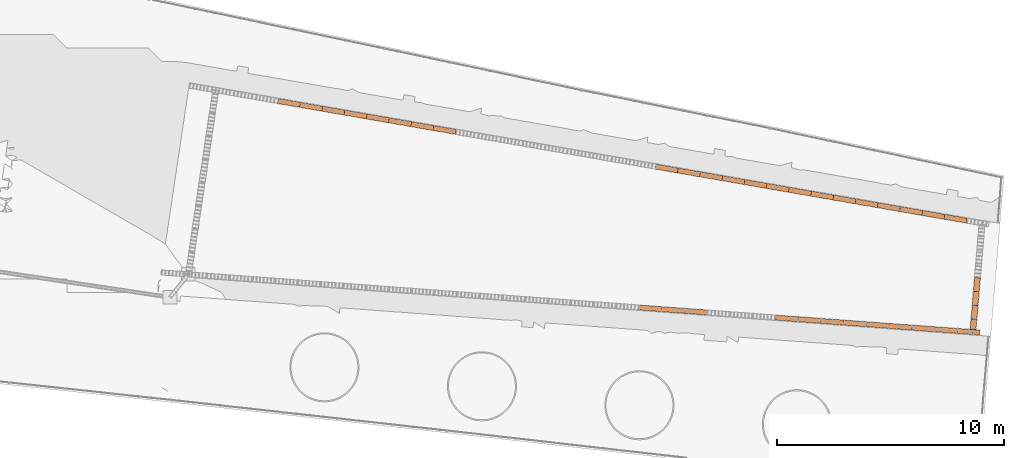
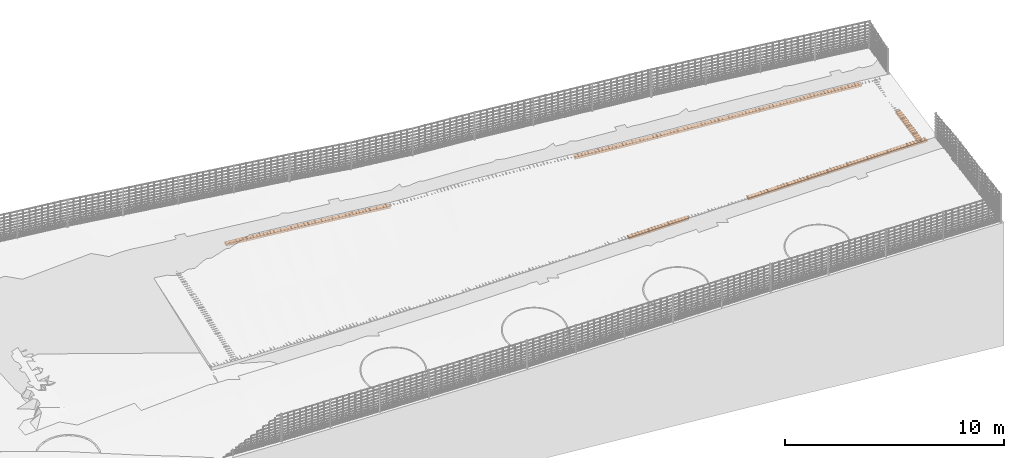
# Not in any storey, part 71 of 72: 39 proxies.
"""IFC4 model written with IfcOpenShell, lengths in metres."""

from ifc_helpers import new_model, si_unit, direction, frame, origin_with_axes, place, context, subcontext, project, spatial, polygons, material, element, save


model = new_model("IFC4")

# Units and contexts
model_context = context("Model", 3, precision=1e-05, world=origin_with_axes(), true_north=direction((0.0, 1.0)))
body_context = subcontext(model_context, "Body", "Model", "MODEL_VIEW")
ifc_project = project(units=[si_unit("VOLUMEUNIT", "CUBIC_METRE"), si_unit("LENGTHUNIT", "METRE"), si_unit("AREAUNIT", "SQUARE_METRE")], contexts=[model_context])

# Site
site_placement = place(None, origin_with_axes())
site = spatial("IfcSite", under=ifc_project, at=site_placement, Name="Lares · Rua das Mercês · artigo 4771")

# Proxies
ifc_material = material(Name="Brita drenante", Category="stone")
proxy_1_placement = place(site_placement, frame((0.0, 0.0, 0.0), z_axis=(0.0, 0.0, 1.0), x_axis=(1.0, -1.03767253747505e-17, 0.0)))
element("IfcBuildingElementProxy", 1, at=proxy_1_placement, inside=site, material=ifc_material, Name="Acesso · dreno lateral raso · leito drenante", ObjectType="Acesso · dreno lateral raso · leito drenante", PredefinedType="USERDEFINED", context=body_context, shape_type="Tessellation", body=[
    polygons([(67.7349789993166, 1.67129338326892, 15.1414441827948), (67.7511062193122, 1.89070147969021, 15.1414441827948), (68.7551753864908, 1.81689907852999, 15.2011838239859), (68.7390481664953, 1.5974909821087, 15.2011838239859), (67.7349789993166, 1.67129338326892, 15.2564441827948), (67.7511062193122, 1.89070147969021, 15.2564441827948), (68.7551753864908, 1.81689907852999, 15.3161838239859), (68.7390481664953, 1.5974909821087, 15.3161838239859)], [[[4, 3, 2, 1]], [[5, 6, 7, 8]], [[1, 2, 6, 5]], [[2, 3, 7, 6]], [[3, 4, 8, 7]], [[4, 1, 5, 8]]]),
])
proxy_2_placement = place(site_placement, frame((0.0, 0.0, 0.0), z_axis=(0.0, 0.0, 1.0), x_axis=(1.0, -1.03767253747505e-17, 0.0)))
element("IfcBuildingElementProxy", 2, at=proxy_2_placement, inside=site, material=ifc_material, Name="Acesso · dreno lateral raso · leito drenante", ObjectType="Acesso · dreno lateral raso · leito drenante", PredefinedType="USERDEFINED", context=body_context, shape_type="Tessellation", body=[
    polygons([(68.7390481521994, 1.59749098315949, 15.2011838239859), (68.7551754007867, 1.8168990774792, 15.2011838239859), (69.7592370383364, 1.74309709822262, 15.2609230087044), (69.7431097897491, 1.52368900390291, 15.2609230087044), (68.7390481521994, 1.59749098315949, 15.3161838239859), (68.7551754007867, 1.8168990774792, 15.3161838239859), (69.7592370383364, 1.74309709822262, 15.3759230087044), (69.7431097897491, 1.52368900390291, 15.3759230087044)], [[[4, 3, 2, 1]], [[5, 6, 7, 8]], [[1, 2, 6, 5]], [[2, 3, 7, 6]], [[3, 4, 8, 7]], [[4, 1, 5, 8]]]),
])
proxy_3_placement = place(site_placement, frame((0.0, 0.0, 0.0), z_axis=(0.0, 0.0, 1.0), x_axis=(1.0, -1.03767253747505e-17, 0.0)))
element("IfcBuildingElementProxy", 3, at=proxy_3_placement, inside=site, material=ifc_material, Name="Acesso · dreno lateral raso · leito drenante", ObjectType="Acesso · dreno lateral raso · leito drenante", PredefinedType="USERDEFINED", context=body_context, shape_type="Tessellation", body=[
    polygons([(69.7431097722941, 1.52368900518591, 15.2609230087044), (69.7592370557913, 1.74309709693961, 15.2609230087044), (70.7632908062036, 1.66929553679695, 15.3206617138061), (70.7471635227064, 1.44988744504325, 15.3206617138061), (69.7431097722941, 1.52368900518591, 15.3759230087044), (69.7592370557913, 1.74309709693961, 15.3759230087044), (70.7632908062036, 1.66929553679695, 15.4356617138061), (70.7471635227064, 1.44988744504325, 15.4356617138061)], [[[4, 3, 2, 1]], [[5, 6, 7, 8]], [[1, 2, 6, 5]], [[2, 3, 7, 6]], [[3, 4, 8, 7]], [[4, 1, 5, 8]]]),
])
proxy_4_placement = place(site_placement, frame((0.0, 0.0, 0.0), z_axis=(0.0, 0.0, 1.0), x_axis=(1.0, -1.03767253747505e-17, 0.0)))
element("IfcBuildingElementProxy", 4, at=proxy_4_placement, inside=site, material=ifc_material, Name="Acesso · dreno lateral raso · leito drenante", ObjectType="Acesso · dreno lateral raso · leito drenante", PredefinedType="USERDEFINED", context=body_context, shape_type="Tessellation", body=[
    polygons([(73.7592734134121, 1.22848523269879, 15.4903385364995), (73.7754009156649, 1.44789330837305, 15.4903385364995), (74.7794190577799, 1.37409335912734, 15.5482507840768), (74.7632915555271, 1.15468528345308, 15.5482507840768), (73.7592734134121, 1.22848523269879, 15.6053385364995), (73.7754009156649, 1.44789330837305, 15.6053385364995), (74.7794190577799, 1.37409335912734, 15.6632507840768), (74.7632915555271, 1.15468528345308, 15.6632507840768)], [[[4, 3, 2, 1]], [[5, 6, 7, 8]], [[1, 2, 6, 5]], [[2, 3, 7, 6]], [[3, 4, 8, 7]], [[4, 1, 5, 8]]]),
])
proxy_5_placement = place(site_placement, frame((0.0, 0.0, 0.0), z_axis=(0.0, 0.0, 1.0), x_axis=(1.0, -1.03767253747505e-17, 0.0)))
element("IfcBuildingElementProxy", 5, at=proxy_5_placement, inside=site, material=ifc_material, Name="Acesso · dreno lateral raso · leito drenante", ObjectType="Acesso · dreno lateral raso · leito drenante", PredefinedType="USERDEFINED", context=body_context, shape_type="Tessellation", body=[
    polygons([(74.7632915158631, 1.15468528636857, 15.5482507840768), (74.7794190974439, 1.37409335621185, 15.5482507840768), (75.7834271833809, 1.30029378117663, 15.6061624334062), (75.7672996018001, 1.08088571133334, 15.6061624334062), (74.7632915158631, 1.15468528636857, 15.6632507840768), (74.7794190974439, 1.37409335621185, 15.6632507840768), (75.7834271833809, 1.30029378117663, 15.7211624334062), (75.7672996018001, 1.08088571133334, 15.7211624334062)], [[[4, 3, 2, 1]], [[5, 6, 7, 8]], [[1, 2, 6, 5]], [[2, 3, 7, 6]], [[3, 4, 8, 7]], [[4, 1, 5, 8]]]),
])
proxy_6_placement = place(site_placement, frame((0.0, 0.0, 0.0), z_axis=(0.0, 0.0, 1.0), x_axis=(1.0, -1.03767253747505e-17, 0.0)))
element("IfcBuildingElementProxy", 6, at=proxy_6_placement, inside=site, material=ifc_material, Name="Acesso · dreno lateral raso · leito drenante", ObjectType="Acesso · dreno lateral raso · leito drenante", PredefinedType="USERDEFINED", context=body_context, shape_type="Tessellation", body=[
    polygons([(75.7672995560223, 1.08088571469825, 15.6061624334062), (75.7834272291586, 1.30029377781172, 15.6061624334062), (76.7874247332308, 1.22649455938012, 15.6640734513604), (76.7712970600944, 1.00708649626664, 15.6640734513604), (75.7672995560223, 1.08088571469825, 15.7211624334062), (75.7834272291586, 1.30029377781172, 15.7211624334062), (76.7874247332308, 1.22649455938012, 15.7790734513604), (76.7712970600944, 1.00708649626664, 15.7790734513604)], [[[4, 3, 2, 1]], [[5, 6, 7, 8]], [[1, 2, 6, 5]], [[2, 3, 7, 6]], [[3, 4, 8, 7]], [[4, 1, 5, 8]]]),
])
proxy_7_placement = place(site_placement, frame((0.0, 0.0, 0.0), z_axis=(0.0, 0.0, 1.0), x_axis=(1.0, -1.03767253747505e-17, 0.0)))
element("IfcBuildingElementProxy", 7, at=proxy_7_placement, inside=site, material=ifc_material, Name="Acesso · dreno lateral raso · leito drenante", ObjectType="Acesso · dreno lateral raso · leito drenante", PredefinedType="USERDEFINED", context=body_context, shape_type="Tessellation", body=[
    polygons([(76.7712970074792, 1.00708650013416, 15.6640734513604), (76.787424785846, 1.2264945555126, 15.6640734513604), (77.7914111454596, 1.15269567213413, 15.7219838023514), (77.7752833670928, 0.933287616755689, 15.7219838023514), (76.7712970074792, 1.00708650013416, 15.7790734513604), (76.787424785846, 1.2264945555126, 15.7790734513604), (77.7914111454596, 1.15269567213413, 15.8369838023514), (77.7752833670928, 0.933287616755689, 15.8369838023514)], [[[4, 3, 2, 1]], [[5, 6, 7, 8]], [[1, 2, 6, 5]], [[2, 3, 7, 6]], [[3, 4, 8, 7]], [[4, 1, 5, 8]]]),
])
proxy_8_placement = place(site_placement, frame((0.0, 0.0, 0.0), z_axis=(0.0, 0.0, 1.0), x_axis=(1.0, -1.03767253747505e-17, 0.0)))
element("IfcBuildingElementProxy", 8, at=proxy_8_placement, inside=site, material=ifc_material, Name="Acesso · dreno lateral raso · leito drenante", ObjectType="Acesso · dreno lateral raso · leito drenante", PredefinedType="USERDEFINED", context=body_context, shape_type="Tessellation", body=[
    polygons([(77.7752833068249, 0.933287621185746, 15.7219838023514), (77.7914112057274, 1.15269566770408, 15.7219838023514), (78.7953858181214, 1.07889709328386, 15.7798934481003), (78.7792579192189, 0.859489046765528, 15.7798934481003), (77.7752833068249, 0.933287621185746, 15.8369838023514), (77.7914112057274, 1.15269566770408, 15.8369838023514), (78.7953858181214, 1.07889709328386, 15.8948934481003), (78.7792579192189, 0.859489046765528, 15.8948934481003)], [[[4, 3, 2, 1]], [[5, 6, 7, 8]], [[1, 2, 6, 5]], [[2, 3, 7, 6]], [[3, 4, 8, 7]], [[4, 1, 5, 8]]]),
])
proxy_9_placement = place(site_placement, frame((0.0, 0.0, 0.0), z_axis=(0.0, 0.0, 1.0), x_axis=(1.0, -1.03767253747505e-17, 0.0)))
element("IfcBuildingElementProxy", 9, at=proxy_9_placement, inside=site, material=ifc_material, Name="Acesso · dreno lateral raso · leito drenante", ObjectType="Acesso · dreno lateral raso · leito drenante", PredefinedType="USERDEFINED", context=body_context, shape_type="Tessellation", body=[
    polygons([(78.7792578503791, 0.859489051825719, 15.7798934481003), (78.7953858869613, 1.07889708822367, 15.7798934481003), (79.7993481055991, 1.00509879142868, 15.8378023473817), (79.7832200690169, 0.785690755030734, 15.8378023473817), (78.7792578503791, 0.859489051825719, 15.8948934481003), (78.7953858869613, 1.07889708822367, 15.8948934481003), (79.7993481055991, 1.00509879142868, 15.9528023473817), (79.7832200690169, 0.785690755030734, 15.9528023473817)], [[[4, 3, 2, 1]], [[5, 6, 7, 8]], [[1, 2, 6, 5]], [[2, 3, 7, 6]], [[3, 4, 8, 7]], [[4, 1, 5, 8]]]),
])
proxy_10_placement = place(site_placement, frame((0.0, 0.0, 0.0), z_axis=(0.0, 0.0, 1.0), x_axis=(1.0, -1.03767253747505e-17, 0.0)))
element("IfcBuildingElementProxy", 10, at=proxy_10_placement, inside=site, material=ifc_material, Name="Acesso · dreno lateral raso · leito drenante", ObjectType="Acesso · dreno lateral raso · leito drenante", PredefinedType="USERDEFINED", context=body_context, shape_type="Tessellation", body=[
    polygons([(79.7832199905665, 0.785690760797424, 15.8378023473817), (79.7993481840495, 1.005098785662, 15.8378023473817), (80.8032973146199, 0.931300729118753, 15.8957104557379), (80.7871691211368, 0.711892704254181, 15.8957104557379), (79.7832199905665, 0.785690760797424, 15.9528023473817), (79.7993481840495, 1.005098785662, 15.9528023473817), (80.8032973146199, 0.931300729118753, 16.0107104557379), (80.7871691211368, 0.711892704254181, 16.0107104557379)], [[[4, 3, 2, 1]], [[5, 6, 7, 8]], [[1, 2, 6, 5]], [[2, 3, 7, 6]], [[3, 4, 8, 7]], [[4, 1, 5, 8]]]),
])
proxy_11_placement = place(site_placement, frame((0.0, 0.0, 0.0), z_axis=(0.0, 0.0, 1.0), x_axis=(1.0, -1.03767253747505e-17, 0.0)))
element("IfcBuildingElementProxy", 11, at=proxy_11_placement, inside=site, material=ifc_material, Name="Acesso · dreno lateral raso · leito drenante", ObjectType="Acesso · dreno lateral raso · leito drenante", PredefinedType="USERDEFINED", context=body_context, shape_type="Tessellation", body=[
    polygons([(80.7871690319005, 0.711892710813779, 15.8957104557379), (80.8032974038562, 0.931300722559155, 15.8957104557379), (81.8072326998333, 0.857502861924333, 15.9472141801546), (81.7911043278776, 0.638094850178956, 15.9472141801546), (80.7871690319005, 0.711892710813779, 16.0107104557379), (80.8032974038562, 0.931300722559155, 16.0107104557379), (81.8072326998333, 0.857502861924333, 16.0622141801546), (81.7911043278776, 0.638094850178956, 16.0622141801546)], [[[4, 3, 2, 1]], [[5, 6, 7, 8]], [[1, 2, 6, 5]], [[2, 3, 7, 6]], [[3, 4, 8, 7]], [[4, 1, 5, 8]]]),
])
proxy_12_placement = place(site_placement, frame((0.0, 0.0, 0.0), z_axis=(0.0, 0.0, 1.0), x_axis=(1.0, -1.03767253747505e-17, 0.0)))
element("IfcBuildingElementProxy", 12, at=proxy_12_placement, inside=site, material=ifc_material, Name="Acesso · dreno lateral raso · leito drenante", ObjectType="Acesso · dreno lateral raso · leito drenante", PredefinedType="USERDEFINED", context=body_context, shape_type="Tessellation", body=[
    polygons([(81.7911042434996, 0.638094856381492, 15.9472141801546), (81.8072327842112, 0.857502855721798, 15.9472141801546), (82.497647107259, 0.806750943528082, 15.97844099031), (82.4815185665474, 0.587342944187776, 15.97844099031), (81.7911042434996, 0.638094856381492, 16.0622141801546), (81.8072327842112, 0.857502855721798, 16.0622141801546), (82.497647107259, 0.806750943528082, 16.09344099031), (82.4815185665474, 0.587342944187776, 16.09344099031)], [[[4, 3, 2, 1]], [[5, 6, 7, 8]], [[1, 2, 6, 5]], [[2, 3, 7, 6]], [[3, 4, 8, 7]], [[4, 1, 5, 8]]]),
])
proxy_13_placement = place(site_placement, frame((0.0, 0.0, 0.0), z_axis=(0.0, 0.0, 1.0), x_axis=(1.0, -1.03767253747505e-17, 0.0)))
element("IfcBuildingElementProxy", 13, at=proxy_13_placement, inside=site, material=ifc_material, Name="Acesso · dreno lateral raso · leito drenante", ObjectType="Acesso · dreno lateral raso · leito drenante", PredefinedType="USERDEFINED", context=body_context, shape_type="Tessellation", body=[
    polygons([(82.4815185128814, 0.587342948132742, 15.97844099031), (82.497647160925, 0.806750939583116, 15.97844099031), (82.7988218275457, 0.784611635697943, 15.9920628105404), (82.7826931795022, 0.565203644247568, 15.9920628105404), (82.4815185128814, 0.587342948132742, 16.09344099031), (82.497647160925, 0.806750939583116, 16.09344099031), (82.7988218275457, 0.784611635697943, 16.1070628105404), (82.7826931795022, 0.565203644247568, 16.1070628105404)], [[[4, 3, 2, 1]], [[5, 6, 7, 8]], [[1, 2, 6, 5]], [[2, 3, 7, 6]], [[3, 4, 8, 7]], [[4, 1, 5, 8]]]),
])
proxy_14_placement = place(site_placement, frame((0.0, 0.0, 0.0), z_axis=(0.0, 0.0, 1.0), x_axis=(1.0, -1.03767253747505e-17, 0.0)))
element("IfcBuildingElementProxy", 14, at=proxy_14_placement, inside=site, material=ifc_material, Name="Acesso · dreno lateral raso · leito drenante", ObjectType="Acesso · dreno lateral raso · leito drenante", PredefinedType="USERDEFINED", context=body_context, shape_type="Tessellation", body=[
    polygons([(51.7936893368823, 10.7893990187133, 14.833814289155), (51.8313420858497, 11.0061529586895, 14.833814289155), (52.812219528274, 10.8357628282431, 14.8641974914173), (52.7745667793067, 10.6190088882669, 14.8641974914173), (51.7936893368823, 10.7893990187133, 14.948814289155), (51.8313420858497, 11.0061529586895, 14.948814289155), (52.812219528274, 10.8357628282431, 14.9791974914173), (52.7745667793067, 10.6190088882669, 14.9791974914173)], [[[4, 3, 2, 1]], [[5, 6, 7, 8]], [[1, 2, 6, 5]], [[2, 3, 7, 6]], [[3, 4, 8, 7]], [[4, 1, 5, 8]]]),
])
proxy_15_placement = place(site_placement, frame((0.0, 0.0, 0.0), z_axis=(0.0, 0.0, 1.0), x_axis=(1.0, -1.03767253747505e-17, 0.0)))
element("IfcBuildingElementProxy", 15, at=proxy_15_placement, inside=site, material=ifc_material, Name="Acesso · dreno lateral raso · leito drenante", ObjectType="Acesso · dreno lateral raso · leito drenante", PredefinedType="USERDEFINED", context=body_context, shape_type="Tessellation", body=[
    polygons([(52.7745668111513, 10.6190088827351, 14.8641974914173), (52.8122194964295, 10.8357628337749, 14.8641974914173), (53.7931006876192, 10.6653723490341, 14.8935725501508), (53.755448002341, 10.4486183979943, 14.8935725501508), (52.7745668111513, 10.6190088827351, 14.9791974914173), (52.8122194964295, 10.8357628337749, 14.9791974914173), (53.7931006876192, 10.6653723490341, 15.0085725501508), (53.755448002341, 10.4486183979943, 15.0085725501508)], [[[4, 3, 2, 1]], [[5, 6, 7, 8]], [[1, 2, 6, 5]], [[2, 3, 7, 6]], [[3, 4, 8, 7]], [[4, 1, 5, 8]]]),
])
proxy_16_placement = place(site_placement, frame((0.0, 0.0, 0.0), z_axis=(0.0, 0.0, 1.0), x_axis=(1.0, -1.03767253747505e-17, 0.0)))
element("IfcBuildingElementProxy", 16, at=proxy_16_placement, inside=site, material=ifc_material, Name="Acesso · dreno lateral raso · leito drenante", ObjectType="Acesso · dreno lateral raso · leito drenante", PredefinedType="USERDEFINED", context=body_context, shape_type="Tessellation", body=[
    polygons([(53.7554480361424, 10.4486183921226, 14.8935725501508), (53.7931006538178, 10.6653723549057, 14.8935725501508), (54.7739857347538, 10.4949815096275, 14.92193946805), (54.7363331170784, 10.2782275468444, 14.92193946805), (53.7554480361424, 10.4486183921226, 15.0085725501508), (53.7931006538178, 10.6653723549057, 15.0085725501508), (54.7739857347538, 10.4949815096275, 15.03693946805), (54.7363331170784, 10.2782275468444, 15.03693946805)], [[[4, 3, 2, 1]], [[5, 6, 7, 8]], [[1, 2, 6, 5]], [[2, 3, 7, 6]], [[3, 4, 8, 7]], [[4, 1, 5, 8]]]),
])
proxy_17_placement = place(site_placement, frame((0.0, 0.0, 0.0), z_axis=(0.0, 0.0, 1.0), x_axis=(1.0, -1.03767253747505e-17, 0.0)))
element("IfcBuildingElementProxy", 17, at=proxy_17_placement, inside=site, material=ifc_material, Name="Acesso · dreno lateral raso · leito drenante", ObjectType="Acesso · dreno lateral raso · leito drenante", PredefinedType="USERDEFINED", context=body_context, shape_type="Tessellation", body=[
    polygons([(54.7363331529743, 10.2782275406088, 14.92193946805), (54.7739856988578, 10.494981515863, 14.92193946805), (55.7548748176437, 10.3245903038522, 14.9492982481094), (55.7172222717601, 10.107836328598, 14.9492982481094), (54.7363331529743, 10.2782275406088, 15.03693946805), (54.7739856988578, 10.494981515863, 15.03693946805), (55.7548748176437, 10.3245903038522, 15.0642982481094), (55.7172222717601, 10.107836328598, 15.0642982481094)], [[[4, 3, 2, 1]], [[5, 6, 7, 8]], [[1, 2, 6, 5]], [[2, 3, 7, 6]], [[3, 4, 8, 7]], [[4, 1, 5, 8]]]),
])
proxy_18_placement = place(site_placement, frame((0.0, 0.0, 0.0), z_axis=(0.0, 0.0, 1.0), x_axis=(1.0, -1.03767253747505e-17, 0.0)))
element("IfcBuildingElementProxy", 18, at=proxy_18_placement, inside=site, material=ifc_material, Name="Acesso · dreno lateral raso · leito drenante", ObjectType="Acesso · dreno lateral raso · leito drenante", PredefinedType="USERDEFINED", context=body_context, shape_type="Tessellation", body=[
    polygons([(55.7172223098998, 10.1078363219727, 14.9492982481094), (55.754874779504, 10.3245903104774, 14.9492982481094), (56.7357680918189, 10.1541987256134, 14.9692064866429), (56.6981156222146, 9.93744473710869, 14.9692064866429), (55.7172223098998, 10.1078363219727, 15.0642982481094), (55.754874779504, 10.3245903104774, 15.0642982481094), (56.7357680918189, 10.1541987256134, 15.0842064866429), (56.6981156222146, 9.93744473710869, 15.0842064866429)], [[[4, 3, 2, 1]], [[5, 6, 7, 8]], [[1, 2, 6, 5]], [[2, 3, 7, 6]], [[3, 4, 8, 7]], [[4, 1, 5, 8]]]),
])
proxy_19_placement = place(site_placement, frame((0.0, 0.0, 0.0), z_axis=(0.0, 0.0, 1.0), x_axis=(1.0, -1.03767253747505e-17, 0.0)))
element("IfcBuildingElementProxy", 19, at=proxy_19_placement, inside=site, material=ifc_material, Name="Acesso · dreno lateral raso · leito drenante", ObjectType="Acesso · dreno lateral raso · leito drenante", PredefinedType="USERDEFINED", context=body_context, shape_type="Tessellation", body=[
    polygons([(56.6981156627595, 9.93744473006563, 14.9692064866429), (56.735768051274, 10.1541987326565, 14.9692064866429), (57.7166657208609, 9.98380676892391, 14.9891148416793), (57.6790133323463, 9.76705276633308, 14.9891148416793), (56.6981156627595, 9.93744473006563, 15.0842064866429), (56.735768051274, 10.1541987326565, 15.0842064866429), (57.7166657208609, 9.98380676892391, 15.1041148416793), (57.6790133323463, 9.76705276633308, 15.1041148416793)], [[[4, 3, 2, 1]], [[5, 6, 7, 8]], [[1, 2, 6, 5]], [[2, 3, 7, 6]], [[3, 4, 8, 7]], [[4, 1, 5, 8]]]),
])
proxy_20_placement = place(site_placement, frame((0.0, 0.0, 0.0), z_axis=(0.0, 0.0, 1.0), x_axis=(1.0, -1.03767253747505e-17, 0.0)))
element("IfcBuildingElementProxy", 20, at=proxy_20_placement, inside=site, material=ifc_material, Name="Acesso · dreno lateral raso · leito drenante", ObjectType="Acesso · dreno lateral raso · leito drenante", PredefinedType="USERDEFINED", context=body_context, shape_type="Tessellation", body=[
    polygons([(57.6790133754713, 9.76705275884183, 14.9891148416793), (57.7166656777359, 9.98380677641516, 14.9891148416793), (58.6975678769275, 9.81341442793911, 15.0090233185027), (58.6599155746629, 9.59666041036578, 15.0090233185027), (57.6790133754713, 9.76705275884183, 15.1041148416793), (57.7166656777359, 9.98380677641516, 15.1041148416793), (58.6975678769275, 9.81341442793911, 15.1240233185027), (58.6599155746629, 9.59666041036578, 15.1240233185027)], [[[4, 3, 2, 1]], [[5, 6, 7, 8]], [[1, 2, 6, 5]], [[2, 3, 7, 6]], [[3, 4, 8, 7]], [[4, 1, 5, 8]]]),
])
proxy_21_placement = place(site_placement, frame((0.0, 0.0, 0.0), z_axis=(0.0, 0.0, 1.0), x_axis=(1.0, -1.03767253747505e-17, 0.0)))
element("IfcBuildingElementProxy", 21, at=proxy_21_placement, inside=site, material=ifc_material, Name="Acesso · dreno lateral raso · leito drenante", ObjectType="Acesso · dreno lateral raso · leito drenante", PredefinedType="USERDEFINED", context=body_context, shape_type="Tessellation", body=[
    polygons([(58.659915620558, 9.59666040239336, 15.0090233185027), (58.6975678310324, 9.81341443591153, 15.0090233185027), (59.6784747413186, 9.64302169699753, 15.017504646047), (59.6408225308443, 9.42626766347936, 15.017504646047), (58.659915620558, 9.59666040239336, 15.1240233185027), (58.6975678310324, 9.81341443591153, 15.1240233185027), (59.6784747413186, 9.64302169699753, 15.132504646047), (59.6408225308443, 9.42626766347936, 15.132504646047)], [[[4, 3, 2, 1]], [[5, 6, 7, 8]], [[1, 2, 6, 5]], [[2, 3, 7, 6]], [[3, 4, 8, 7]], [[4, 1, 5, 8]]]),
])
proxy_22_placement = place(site_placement, frame((0.0, 0.0, 0.0), z_axis=(0.0, 0.0, 1.0), x_axis=(1.0, -1.03767253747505e-17, 0.0)))
element("IfcBuildingElementProxy", 22, at=proxy_22_placement, inside=site, material=ifc_material, Name="Acesso · dreno lateral raso · leito drenante", ObjectType="Acesso · dreno lateral raso · leito drenante", PredefinedType="USERDEFINED", context=body_context, shape_type="Tessellation", body=[
    polygons([(68.4692327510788, 7.89271454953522, 15.5712781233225), (68.5068836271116, 8.10946881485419, 15.5712781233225), (69.487850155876, 7.93907194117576, 15.6098622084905), (69.4501992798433, 7.72231767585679, 15.6098622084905), (68.4692327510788, 7.89271454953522, 15.6862781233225), (68.5068836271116, 8.10946881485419, 15.6862781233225), (69.487850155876, 7.93907194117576, 15.7248622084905), (69.4501992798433, 7.72231767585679, 15.7248622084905)], [[[4, 3, 2, 1]], [[5, 6, 7, 8]], [[1, 2, 6, 5]], [[2, 3, 7, 6]], [[3, 4, 8, 7]], [[4, 1, 5, 8]]]),
])
proxy_23_placement = place(site_placement, frame((0.0, 0.0, 0.0), z_axis=(0.0, 0.0, 1.0), x_axis=(1.0, -1.03767253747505e-17, 0.0)))
element("IfcBuildingElementProxy", 23, at=proxy_23_placement, inside=site, material=ifc_material, Name="Acesso · dreno lateral raso · leito drenante", ObjectType="Acesso · dreno lateral raso · leito drenante", PredefinedType="USERDEFINED", context=body_context, shape_type="Tessellation", body=[
    polygons([(69.4501993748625, 7.7223176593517, 15.6098622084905), (69.4878500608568, 7.93907195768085, 15.6098622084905), (70.4688241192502, 7.76867466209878, 15.6484466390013), (70.4311734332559, 7.55192036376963, 15.6484466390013), (69.4501993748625, 7.7223176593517, 15.7248622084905), (69.4878500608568, 7.93907195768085, 15.7248622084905), (70.4688241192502, 7.76867466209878, 15.7634466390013), (70.4311734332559, 7.55192036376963, 15.7634466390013)], [[[4, 3, 2, 1]], [[5, 6, 7, 8]], [[1, 2, 6, 5]], [[2, 3, 7, 6]], [[3, 4, 8, 7]], [[4, 1, 5, 8]]]),
])
proxy_24_placement = place(site_placement, frame((0.0, 0.0, 0.0), z_axis=(0.0, 0.0, 1.0), x_axis=(1.0, -1.03767253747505e-17, 0.0)))
element("IfcBuildingElementProxy", 24, at=proxy_24_placement, inside=site, material=ifc_material, Name="Acesso · dreno lateral raso · leito drenante", ObjectType="Acesso · dreno lateral raso · leito drenante", PredefinedType="USERDEFINED", context=body_context, shape_type="Tessellation", body=[
    polygons([(70.4311735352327, 7.5519203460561, 15.6484466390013), (70.4688240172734, 7.76867467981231, 15.6484466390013), (71.4498059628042, 7.59827696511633, 15.7002770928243), (71.4121554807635, 7.38152263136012, 15.7002770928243), (70.4311735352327, 7.5519203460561, 15.7634466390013), (70.4688240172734, 7.76867467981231, 15.7634466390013), (71.4498059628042, 7.59827696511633, 15.8152770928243), (71.4121554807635, 7.38152263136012, 15.8152770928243)], [[[4, 3, 2, 1]], [[5, 6, 7, 8]], [[1, 2, 6, 5]], [[2, 3, 7, 6]], [[3, 4, 8, 7]], [[4, 1, 5, 8]]]),
])
proxy_25_placement = place(site_placement, frame((0.0, 0.0, 0.0), z_axis=(0.0, 0.0, 1.0), x_axis=(1.0, -1.03767253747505e-17, 0.0)))
element("IfcBuildingElementProxy", 25, at=proxy_25_placement, inside=site, material=ifc_material, Name="Acesso · dreno lateral raso · leito drenante", ObjectType="Acesso · dreno lateral raso · leito drenante", PredefinedType="USERDEFINED", context=body_context, shape_type="Tessellation", body=[
    polygons([(71.412155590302, 7.3815226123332, 15.7002770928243), (71.4498058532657, 7.59827698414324, 15.7002770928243), (72.4307960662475, 7.4278788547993, 15.7623891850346), (72.3931458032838, 7.21112448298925, 15.7623891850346), (71.412155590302, 7.3815226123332, 15.8152770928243), (71.4498058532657, 7.59827698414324, 15.8152770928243), (72.4307960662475, 7.4278788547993, 15.8773891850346), (72.3931458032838, 7.21112448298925, 15.8773891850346)], [[[4, 3, 2, 1]], [[5, 6, 7, 8]], [[1, 2, 6, 5]], [[2, 3, 7, 6]], [[3, 4, 8, 7]], [[4, 1, 5, 8]]]),
])
proxy_26_placement = place(site_placement, frame((0.0, 0.0, 0.0), z_axis=(0.0, 0.0, 1.0), x_axis=(1.0, -1.03767253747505e-17, 0.0)))
element("IfcBuildingElementProxy", 26, at=proxy_26_placement, inside=site, material=ifc_material, Name="Acesso · dreno lateral raso · leito drenante", ObjectType="Acesso · dreno lateral raso · leito drenante", PredefinedType="USERDEFINED", context=body_context, shape_type="Tessellation", body=[
    polygons([(72.3931459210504, 7.21112446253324, 15.7623891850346), (72.4307959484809, 7.4278788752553, 15.7623891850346), (73.411794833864, 7.25748033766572, 15.8187740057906), (73.3741448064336, 7.04072592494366, 15.8187740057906), (72.3931459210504, 7.21112446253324, 15.8773891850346), (72.4307959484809, 7.4278788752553, 15.8773891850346), (73.411794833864, 7.25748033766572, 15.9337740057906), (73.3741448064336, 7.04072592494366, 15.9337740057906)], [[[4, 3, 2, 1]], [[5, 6, 7, 8]], [[1, 2, 6, 5]], [[2, 3, 7, 6]], [[3, 4, 8, 7]], [[4, 1, 5, 8]]]),
])
proxy_27_placement = place(site_placement, frame((0.0, 0.0, 0.0), z_axis=(0.0, 0.0, 1.0), x_axis=(1.0, -1.03767253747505e-17, 0.0)))
element("IfcBuildingElementProxy", 27, at=proxy_27_placement, inside=site, material=ifc_material, Name="Acesso · dreno lateral raso · leito drenante", ObjectType="Acesso · dreno lateral raso · leito drenante", PredefinedType="USERDEFINED", context=body_context, shape_type="Tessellation", body=[
    polygons([(73.3741449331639, 7.04072590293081, 15.8187740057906), (73.4117947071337, 7.25748035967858, 15.8187740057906), (74.3928026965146, 7.08708142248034, 15.8729916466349), (74.3551529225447, 6.87032696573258, 15.8729916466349), (73.3741449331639, 7.04072590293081, 15.9337740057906), (73.4117947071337, 7.25748035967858, 15.9337740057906), (74.3928026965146, 7.08708142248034, 15.9879916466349), (74.3551529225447, 6.87032696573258, 15.9879916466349)], [[[4, 3, 2, 1]], [[5, 6, 7, 8]], [[1, 2, 6, 5]], [[2, 3, 7, 6]], [[3, 4, 8, 7]], [[4, 1, 5, 8]]]),
])
proxy_28_placement = place(site_placement, frame((0.0, 0.0, 0.0), z_axis=(0.0, 0.0, 1.0), x_axis=(1.0, -1.03767253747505e-17, 0.0)))
element("IfcBuildingElementProxy", 28, at=proxy_28_placement, inside=site, material=ifc_material, Name="Acesso · dreno lateral raso · leito drenante", ObjectType="Acesso · dreno lateral raso · leito drenante", PredefinedType="USERDEFINED", context=body_context, shape_type="Tessellation", body=[
    polygons([(74.3551530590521, 6.87032694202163, 15.8729916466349), (74.3928025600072, 7.08708144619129, 15.8729916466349), (75.3738201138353, 6.91668212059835, 15.9272099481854), (75.3361706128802, 6.69992761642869, 15.9272099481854), (74.3551530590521, 6.87032694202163, 15.9879916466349), (74.3928025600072, 7.08708144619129, 15.9879916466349), (75.3738201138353, 6.91668212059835, 16.0422099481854), (75.3361706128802, 6.69992761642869, 16.0422099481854)], [[[4, 3, 2, 1]], [[5, 6, 7, 8]], [[1, 2, 6, 5]], [[2, 3, 7, 6]], [[3, 4, 8, 7]], [[4, 1, 5, 8]]]),
])
proxy_29_placement = place(site_placement, frame((0.0, 0.0, 0.0), z_axis=(0.0, 0.0, 1.0), x_axis=(1.0, -1.03767253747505e-17, 0.0)))
element("IfcBuildingElementProxy", 29, at=proxy_29_placement, inside=site, material=ifc_material, Name="Acesso · dreno lateral raso · leito drenante", ObjectType="Acesso · dreno lateral raso · leito drenante", PredefinedType="USERDEFINED", context=body_context, shape_type="Tessellation", body=[
    polygons([(75.3361707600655, 6.69992759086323, 15.9272099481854), (75.37381996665, 6.91668214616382, 15.9272099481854), (76.3548475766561, 6.74628244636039, 15.981428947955), (76.3171983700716, 6.5295278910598, 15.981428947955), (75.3361707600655, 6.69992759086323, 16.0422099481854), (75.37381996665, 6.91668214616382, 16.0422099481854), (76.3548475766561, 6.74628244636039, 16.096428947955), (76.3171983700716, 6.5295278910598, 16.096428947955)], [[[4, 3, 2, 1]], [[5, 6, 7, 8]], [[1, 2, 6, 5]], [[2, 3, 7, 6]], [[3, 4, 8, 7]], [[4, 1, 5, 8]]]),
])
proxy_30_placement = place(site_placement, frame((0.0, 0.0, 0.0), z_axis=(0.0, 0.0, 1.0), x_axis=(1.0, -1.03767253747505e-17, 0.0)))
element("IfcBuildingElementProxy", 30, at=proxy_30_placement, inside=site, material=ifc_material, Name="Acesso · dreno lateral raso · leito drenante", ObjectType="Acesso · dreno lateral raso · leito drenante", PredefinedType="USERDEFINED", context=body_context, shape_type="Tessellation", body=[
    polygons([(76.3171985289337, 6.52952786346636, 15.981428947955), (76.3548474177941, 6.74628247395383, 15.981428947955), (77.335885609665, 6.57588241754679, 16.0356486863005), (77.2982367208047, 6.35912780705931, 16.0356486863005), (76.3171985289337, 6.52952786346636, 16.096428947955), (76.3548474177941, 6.74628247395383, 16.096428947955), (77.335885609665, 6.57588241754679, 16.1506486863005), (77.2982367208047, 6.35912780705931, 16.1506486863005)], [[[4, 3, 2, 1]], [[5, 6, 7, 8]], [[1, 2, 6, 5]], [[2, 3, 7, 6]], [[3, 4, 8, 7]], [[4, 1, 5, 8]]]),
])
proxy_31_placement = place(site_placement, frame((0.0, 0.0, 0.0), z_axis=(0.0, 0.0, 1.0), x_axis=(1.0, -1.03767253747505e-17, 0.0)))
element("IfcBuildingElementProxy", 31, at=proxy_31_placement, inside=site, material=ifc_material, Name="Acesso · dreno lateral raso · leito drenante", ObjectType="Acesso · dreno lateral raso · leito drenante", PredefinedType="USERDEFINED", context=body_context, shape_type="Tessellation", body=[
    polygons([(77.2982368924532, 6.35912777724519, 16.0356486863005), (77.3358854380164, 6.57588244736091, 16.0356486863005), (78.3169347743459, 6.40548205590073, 16.0898692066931), (78.2792862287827, 6.18872738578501, 16.0898692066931), (77.2982368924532, 6.35912777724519, 16.1506486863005), (77.3358854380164, 6.57588244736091, 16.1506486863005), (78.3169347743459, 6.40548205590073, 16.2048692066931), (78.2792862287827, 6.18872738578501, 16.2048692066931)], [[[4, 3, 2, 1]], [[5, 6, 7, 8]], [[1, 2, 6, 5]], [[2, 3, 7, 6]], [[3, 4, 8, 7]], [[4, 1, 5, 8]]]),
])
proxy_32_placement = place(site_placement, frame((0.0, 0.0, 0.0), z_axis=(0.0, 0.0, 1.0), x_axis=(1.0, -1.03767253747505e-17, 0.0)))
element("IfcBuildingElementProxy", 32, at=proxy_32_placement, inside=site, material=ifc_material, Name="Acesso · dreno lateral raso · leito drenante", ObjectType="Acesso · dreno lateral raso · leito drenante", PredefinedType="USERDEFINED", context=body_context, shape_type="Tessellation", body=[
    polygons([(78.2792864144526, 6.18872735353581, 16.0898692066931), (78.316934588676, 6.40548208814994, 16.0898692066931), (79.2979956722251, 6.23508138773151, 16.1440905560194), (79.2603474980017, 6.01832665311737, 16.1440905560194), (78.2792864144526, 6.18872735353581, 16.2048692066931), (78.316934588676, 6.40548208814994, 16.2048692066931), (79.2979956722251, 6.23508138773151, 16.2590905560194), (79.2603474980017, 6.01832665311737, 16.2590905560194)], [[[4, 3, 2, 1]], [[5, 6, 7, 8]], [[1, 2, 6, 5]], [[2, 3, 7, 6]], [[3, 4, 8, 7]], [[4, 1, 5, 8]]]),
])
proxy_33_placement = place(site_placement, frame((0.0, 0.0, 0.0), z_axis=(0.0, 0.0, 1.0), x_axis=(1.0, -1.03767253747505e-17, 0.0)))
element("IfcBuildingElementProxy", 33, at=proxy_33_placement, inside=site, material=ifc_material, Name="Acesso · dreno lateral raso · leito drenante", ObjectType="Acesso · dreno lateral raso · leito drenante", PredefinedType="USERDEFINED", context=body_context, shape_type="Tessellation", body=[
    polygons([(79.2603476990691, 6.01832661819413, 16.1440905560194), (79.2979954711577, 6.23508142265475, 16.1440905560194), (80.279068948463, 6.06468044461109, 16.1933488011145), (80.2414211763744, 5.84792564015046, 16.1933488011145), (79.2603476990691, 6.01832661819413, 16.2590905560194), (79.2979954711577, 6.23508142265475, 16.2590905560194), (80.279068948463, 6.06468044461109, 16.3083488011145), (80.2414211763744, 5.84792564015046, 16.3083488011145)], [[[4, 3, 2, 1]], [[5, 6, 7, 8]], [[1, 2, 6, 5]], [[2, 3, 7, 6]], [[3, 4, 8, 7]], [[4, 1, 5, 8]]]),
])
proxy_34_placement = place(site_placement, frame((0.0, 0.0, 0.0), z_axis=(0.0, 0.0, 1.0), x_axis=(1.0, -1.03767253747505e-17, 0.0)))
element("IfcBuildingElementProxy", 34, at=proxy_34_placement, inside=site, material=ifc_material, Name="Acesso · dreno lateral raso · leito drenante", ObjectType="Acesso · dreno lateral raso · leito drenante", PredefinedType="USERDEFINED", context=body_context, shape_type="Tessellation", body=[
    polygons([(80.2414213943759, 5.84792560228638, 16.1933488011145), (80.2790687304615, 6.06468048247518, 16.1933488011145), (81.2601552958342, 5.89427926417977, 16.2367724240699), (81.2225079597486, 5.67752438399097, 16.2367724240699), (80.2414213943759, 5.84792560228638, 16.3083488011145), (80.2790687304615, 6.06468048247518, 16.3083488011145), (81.2601552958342, 5.89427926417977, 16.3517724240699), (81.2225079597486, 5.67752438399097, 16.3517724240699)], [[[4, 3, 2, 1]], [[5, 6, 7, 8]], [[1, 2, 6, 5]], [[2, 3, 7, 6]], [[3, 4, 8, 7]], [[4, 1, 5, 8]]]),
])
proxy_35_placement = place(site_placement, frame((0.0, 0.0, 0.0), z_axis=(0.0, 0.0, 1.0), x_axis=(1.0, -1.03767253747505e-17, 0.0)))
element("IfcBuildingElementProxy", 35, at=proxy_35_placement, inside=site, material=ifc_material, Name="Acesso · dreno lateral raso · leito drenante", ObjectType="Acesso · dreno lateral raso · leito drenante", PredefinedType="USERDEFINED", context=body_context, shape_type="Tessellation", body=[
    polygons([(81.222508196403, 5.67752434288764, 16.2367724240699), (81.2601550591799, 5.8942793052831, 16.2367724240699), (82.2412554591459, 5.72387789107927, 16.2737932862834), (82.203608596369, 5.50712292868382, 16.2737932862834), (81.222508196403, 5.67752434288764, 16.3517724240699), (81.2601550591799, 5.8942793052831, 16.3517724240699), (82.2412554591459, 5.72387789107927, 16.3887932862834), (82.203608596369, 5.50712292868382, 16.3887932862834)], [[[4, 3, 2, 1]], [[5, 6, 7, 8]], [[1, 2, 6, 5]], [[2, 3, 7, 6]], [[3, 4, 8, 7]], [[4, 1, 5, 8]]]),
])
proxy_36_placement = place(site_placement, frame((0.0, 0.0, 0.0), z_axis=(0.0, 0.0, 1.0), x_axis=(1.0, -1.03767253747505e-17, 0.0)))
element("IfcBuildingElementProxy", 36, at=proxy_36_placement, inside=site, material=ifc_material, Name="Interceção · caleira rua · leito drenante", ObjectType="Interceção · caleira rua · leito drenante", PredefinedType="USERDEFINED", context=body_context, shape_type="Tessellation", body=[
    polygons([(82.6165793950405, 0.656158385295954, 15.9767944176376), (82.3575111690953, 0.678150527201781, 15.9767944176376), (82.4090926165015, 1.28578184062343, 16.0102646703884), (82.6681608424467, 1.2637896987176, 16.0102646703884), (82.6165793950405, 0.656158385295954, 16.0917944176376), (82.3575111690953, 0.678150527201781, 16.0917944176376), (82.4090926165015, 1.28578184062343, 16.1252646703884), (82.6681608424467, 1.2637896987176, 16.1252646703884)], [[[4, 3, 2, 1]], [[5, 6, 7, 8]], [[1, 2, 6, 5]], [[2, 3, 7, 6]], [[3, 4, 8, 7]], [[4, 1, 5, 8]]]),
])
proxy_37_placement = place(site_placement, frame((0.0, 0.0, 0.0), z_axis=(0.0, 0.0, 1.0), x_axis=(1.0, -1.03767253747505e-17, 0.0)))
element("IfcBuildingElementProxy", 37, at=proxy_37_placement, inside=site, material=ifc_material, Name="Interceção · caleira rua · leito drenante", ObjectType="Interceção · caleira rua · leito drenante", PredefinedType="USERDEFINED", context=body_context, shape_type="Tessellation", body=[
    polygons([(82.6681608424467, 1.2637896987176, 16.0102646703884), (82.4090926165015, 1.28578184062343, 16.0102646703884), (82.4606740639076, 1.89341315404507, 16.0437349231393), (82.7197422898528, 1.87142101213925, 16.0437349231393), (82.6681608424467, 1.2637896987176, 16.1252646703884), (82.4090926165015, 1.28578184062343, 16.1252646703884), (82.4606740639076, 1.89341315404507, 16.1587349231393), (82.7197422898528, 1.87142101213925, 16.1587349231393)], [[[4, 3, 2, 1]], [[5, 6, 7, 8]], [[1, 2, 6, 5]], [[2, 3, 7, 6]], [[3, 4, 8, 7]], [[4, 1, 5, 8]]]),
])
proxy_38_placement = place(site_placement, frame((0.0, 0.0, 0.0), z_axis=(0.0, 0.0, 1.0), x_axis=(1.0, -1.03767253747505e-17, 0.0)))
element("IfcBuildingElementProxy", 38, at=proxy_38_placement, inside=site, material=ifc_material, Name="Interceção · caleira rua · leito drenante", ObjectType="Interceção · caleira rua · leito drenante", PredefinedType="USERDEFINED", context=body_context, shape_type="Tessellation", body=[
    polygons([(82.7197422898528, 1.87142101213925, 16.0437349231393), (82.4606740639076, 1.89341315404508, 16.0437349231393), (82.5122555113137, 2.50104446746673, 16.0772051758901), (82.7713237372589, 2.4790523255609, 16.0772051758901), (82.7197422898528, 1.87142101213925, 16.1587349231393), (82.4606740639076, 1.89341315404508, 16.1587349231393), (82.5122555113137, 2.50104446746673, 16.1922051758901), (82.7713237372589, 2.4790523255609, 16.1922051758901)], [[[4, 3, 2, 1]], [[5, 6, 7, 8]], [[1, 2, 6, 5]], [[2, 3, 7, 6]], [[3, 4, 8, 7]], [[4, 1, 5, 8]]]),
])
proxy_39_placement = place(site_placement, frame((0.0, 0.0, 0.0), z_axis=(0.0, 0.0, 1.0), x_axis=(1.0, -1.03767253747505e-17, 0.0)))
element("IfcBuildingElementProxy", 39, at=proxy_39_placement, inside=site, material=ifc_material, Name="Interceção · caleira rua · leito drenante", ObjectType="Interceção · caleira rua · leito drenante", PredefinedType="USERDEFINED", context=body_context, shape_type="Tessellation", body=[
    polygons([(82.7713237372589, 2.4790523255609, 16.0772051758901), (82.5122555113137, 2.50104446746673, 16.0772051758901), (82.5638369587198, 3.10867578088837, 16.110675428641), (82.8229051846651, 3.08668363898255, 16.110675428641), (82.7713237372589, 2.4790523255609, 16.1922051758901), (82.5122555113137, 2.50104446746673, 16.1922051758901), (82.5638369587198, 3.10867578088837, 16.225675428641), (82.8229051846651, 3.08668363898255, 16.225675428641)], [[[4, 3, 2, 1]], [[5, 6, 7, 8]], [[1, 2, 6, 5]], [[2, 3, 7, 6]], [[3, 4, 8, 7]], [[4, 1, 5, 8]]]),
])

save(model, "model.ifc")
